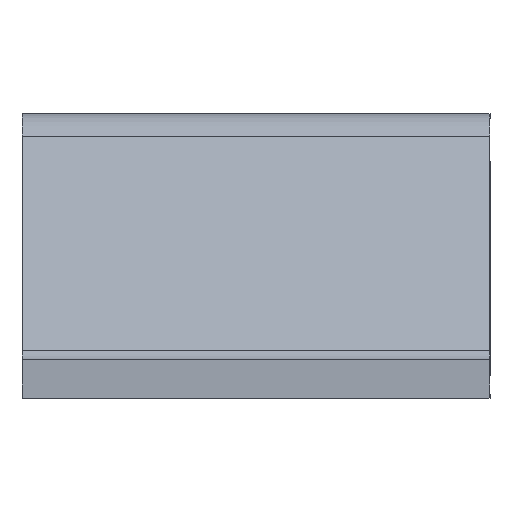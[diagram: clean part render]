
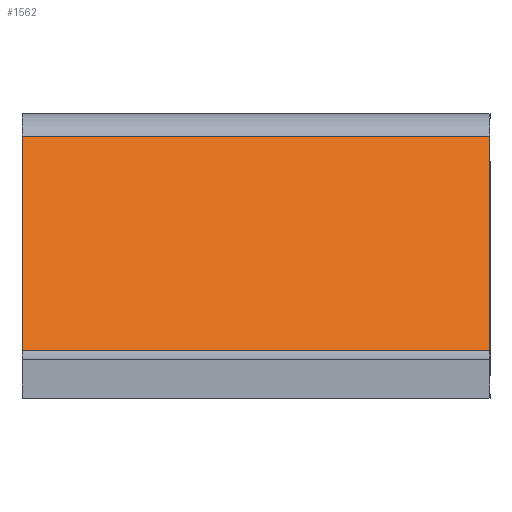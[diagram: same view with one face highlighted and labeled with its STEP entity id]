
A CAD part, front view. The second image highlights one B-rep face of the part: STEP entity #1562.
In plain terms, the highlighted planar face has unit normal (0, -0.906, 0.422).
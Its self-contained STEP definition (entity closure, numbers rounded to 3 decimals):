
#98 = VERTEX_POINT ( 'NONE', #466 ) ;
#105 = VECTOR ( 'NONE', #1221, 1000. ) ;
#204 = EDGE_CURVE ( 'NONE', #1252, #98, #338, .T. ) ;
#213 = ORIENTED_EDGE ( 'NONE', *, *, #204, .T. ) ;
#216 = LINE ( 'NONE', #687, #105 ) ;
#220 = EDGE_CURVE ( 'NONE', #1351, #1252, #1027, .T. ) ;
#231 = VERTEX_POINT ( 'NONE', #787 ) ;
#338 = LINE ( 'NONE', #584, #1354 ) ;
#392 = CARTESIAN_POINT ( 'NONE',  ( 95.7, -245.668, -212.944 ) ) ;
#410 = DIRECTION ( 'NONE',  ( 1., 0., 0. ) ) ;
#419 = ORIENTED_EDGE ( 'NONE', *, *, #870, .T. ) ;
#438 = PLANE ( 'NONE',  #1251 ) ;
#466 = CARTESIAN_POINT ( 'NONE',  ( 155.7, -232.882, -185.489 ) ) ;
#584 = CARTESIAN_POINT ( 'NONE',  ( 155.7, -246.206, -214.1 ) ) ;
#612 = EDGE_LOOP ( 'NONE', ( #213, #419, #1474, #1002 ) ) ;
#687 = CARTESIAN_POINT ( 'NONE',  ( 95.7, -246.206, -214.1 ) ) ;
#689 = VECTOR ( 'NONE', #410, 1000. ) ;
#725 = FACE_OUTER_BOUND ( 'NONE', #612, .T. ) ;
#760 = CARTESIAN_POINT ( 'NONE',  ( 95.7, -232.882, -185.489 ) ) ;
#769 = EDGE_CURVE ( 'NONE', #1351, #231, #216, .T. ) ;
#787 = CARTESIAN_POINT ( 'NONE',  ( 95.7, -232.882, -185.489 ) ) ;
#837 = VECTOR ( 'NONE', #1419, 1000. ) ;
#870 = EDGE_CURVE ( 'NONE', #98, #231, #1539, .T. ) ;
#1002 = ORIENTED_EDGE ( 'NONE', *, *, #220, .T. ) ;
#1027 = LINE ( 'NONE', #1333, #689 ) ;
#1098 = DIRECTION ( 'NONE',  ( 0., 0.422, 0.907 ) ) ;
#1221 = DIRECTION ( 'NONE',  ( 0., 0.422, 0.907 ) ) ;
#1233 = DIRECTION ( 'NONE',  ( 0., 0.422, 0.907 ) ) ;
#1251 = AXIS2_PLACEMENT_3D ( 'NONE', #1613, #1627, #1098 ) ;
#1252 = VERTEX_POINT ( 'NONE', #1715 ) ;
#1333 = CARTESIAN_POINT ( 'NONE',  ( 155.7, -245.668, -212.944 ) ) ;
#1351 = VERTEX_POINT ( 'NONE', #392 ) ;
#1354 = VECTOR ( 'NONE', #1233, 1000. ) ;
#1419 = DIRECTION ( 'NONE',  ( -1., 0., 0. ) ) ;
#1474 = ORIENTED_EDGE ( 'NONE', *, *, #769, .F. ) ;
#1539 = LINE ( 'NONE', #760, #837 ) ;
#1562 = ADVANCED_FACE ( 'NONE', ( #725 ), #438, .F. ) ;
#1613 = CARTESIAN_POINT ( 'NONE',  ( 95.7, -246.206, -214.1 ) ) ;
#1627 = DIRECTION ( 'NONE',  ( 0., 0.907, -0.422 ) ) ;
#1715 = CARTESIAN_POINT ( 'NONE',  ( 155.7, -245.668, -212.944 ) ) ;
